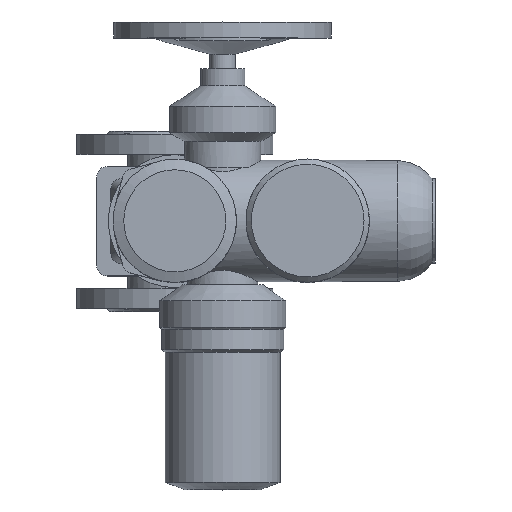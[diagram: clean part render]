
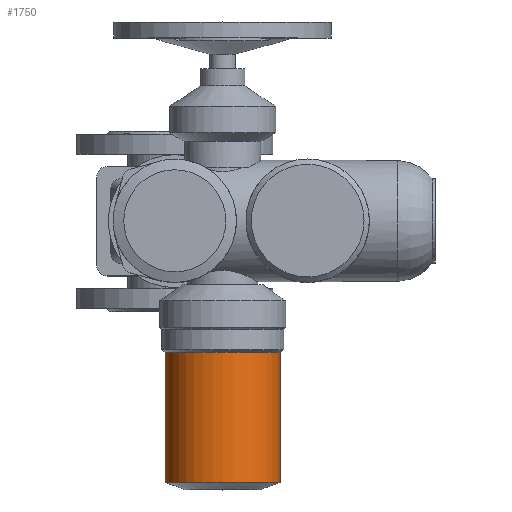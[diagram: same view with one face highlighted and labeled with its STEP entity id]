
A CAD part, top view. The second image highlights one B-rep face of the part: STEP entity #1750.
In plain terms, the highlighted cylindrical face has radius 54 mm (diameter 108 mm), a full revolution.
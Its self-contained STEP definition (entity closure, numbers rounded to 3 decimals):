
#1750=ADVANCED_FACE('',(#3745,#3747),#3749,.T.);
#3745=FACE_OUTER_BOUND('',#3746,.T.);
#3746=EDGE_LOOP('',(#4657));
#3747=FACE_OUTER_BOUND('',#3748,.T.);
#3748=EDGE_LOOP('',(#4658));
#3749=CYLINDRICAL_SURFACE('',#3750,54.);
#3750=AXIS2_PLACEMENT_3D('',#3751,#3752,#3753);
#3751=CARTESIAN_POINT('',(45.,-246.085,274.));
#3752=DIRECTION('',(0.,1.,0.));
#3753=DIRECTION('',(0.,0.,1.));
#4657=ORIENTED_EDGE('',*,*,#5105,.F.);
#4658=ORIENTED_EDGE('',*,*,#5106,.T.);
#5105=EDGE_CURVE('',#5865,#5865,#5866,.T.);
#5106=EDGE_CURVE('',#5867,#5867,#5868,.T.);
#5865=VERTEX_POINT('',#9600);
#5866=CIRCLE('',#9601,54.);
#5867=VERTEX_POINT('',#9605);
#5868=CIRCLE('',#9606,54.);
#9600=CARTESIAN_POINT('',(45.,-123.505,328.));
#9601=AXIS2_PLACEMENT_3D('',#9602,#9603,#9604);
#9602=CARTESIAN_POINT('',(45.,-123.505,274.));
#9603=DIRECTION('',(0.,1.,0.));
#9604=DIRECTION('',(0.,0.,1.));
#9605=CARTESIAN_POINT('',(45.,-246.085,328.));
#9606=AXIS2_PLACEMENT_3D('',#9607,#9608,#9609);
#9607=CARTESIAN_POINT('',(45.,-246.085,274.));
#9608=DIRECTION('',(0.,1.,0.));
#9609=DIRECTION('',(0.,0.,1.));
